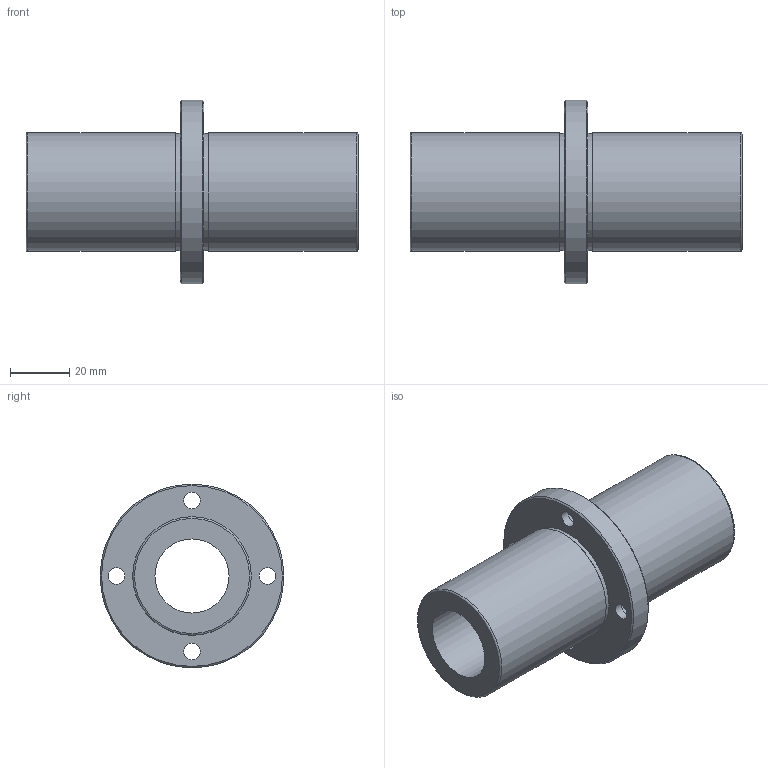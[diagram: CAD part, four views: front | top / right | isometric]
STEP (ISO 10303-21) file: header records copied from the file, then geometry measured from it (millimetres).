
FILE_DESCRIPTION(('STEP AP203'),'1');
FILE_NAME('//192.168.1.1/share/s-4 技術開発/s-4-4_CAD/s-4-4-3_見直し済み/002 修正済み/NFCD-VL/NFCD-VL_TOP/NFCD-25VLUU.step','2022-03-08T04:18:56',(' '),(' '),'Spatial InterOp 3D',' ',' ');
FILE_SCHEMA(('CONFIG_CONTROL_DESIGN'));
Length unit declared in the file: millimetre
Products named in the file (1): 1
Bounding box: 112 x 62 x 62 mm (x, y, z)
Volume: 98123.9 mm3; surface area: 29007.3 mm2
Topology: 1 solids, 1 shells, 28 faces, 56 edges, 38 vertices
Faces by surface type: cylinder 14, plane 10, torus 2, cone 2
Full cylindrical faces by diameter (mm): 5.5 x4, 9 x4, 25 x1, 39.5 x2, 40 x2, 62 x1
Entity records: 668 total; most frequent: DIRECTION 122, CARTESIAN_POINT 93, EDGE_LOOP 64, ORIENTED_EDGE 64, AXIS2_PLACEMENT_3D 61, FACE_OUTER_BOUND 44, EDGE_CURVE 32, VERTEX_POINT 32
